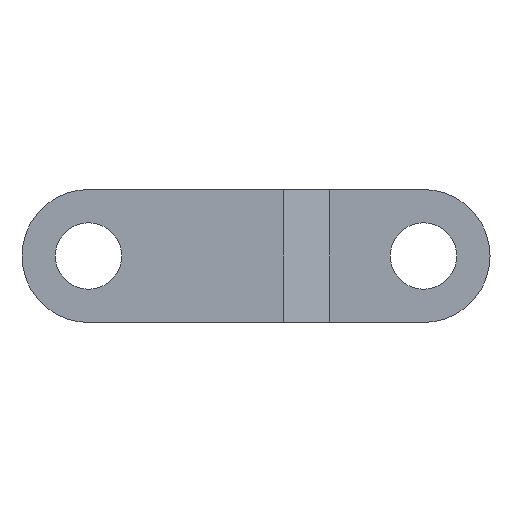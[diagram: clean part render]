
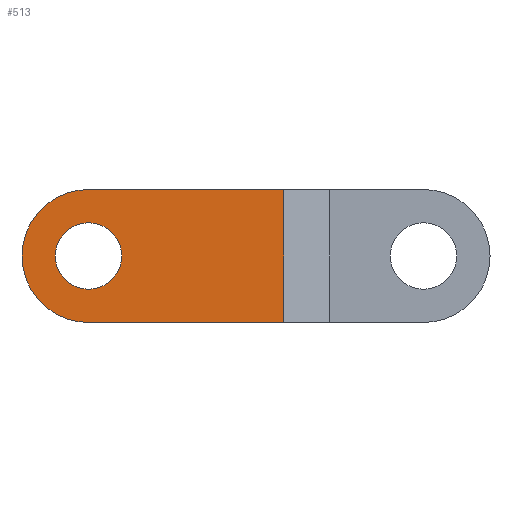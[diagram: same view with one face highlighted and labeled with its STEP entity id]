
A CAD part, left-side view. The second image highlights one B-rep face of the part: STEP entity #513.
In plain terms, the highlighted planar face has unit normal (-1, 0, 0).
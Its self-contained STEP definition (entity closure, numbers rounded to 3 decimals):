
#436=CARTESIAN_POINT('Vertex',(-24.25,10.1,0.)) ;
#439=CARTESIAN_POINT('Axis2P3D Location',(-24.25,12.6,0.)) ;
#443=CARTESIAN_POINT('Vertex',(-24.25,15.1,0.)) ;
#458=CARTESIAN_POINT('Axis2P3D Location',(-24.25,12.6,0.)) ;
#470=CARTESIAN_POINT('Axis2P3D Location',(-24.25,0.,0.)) ;
#475=CARTESIAN_POINT('Line Origine',(-24.25,5.25,5.)) ;
#479=CARTESIAN_POINT('Vertex',(-24.25,12.6,5.)) ;
#481=CARTESIAN_POINT('Vertex',(-24.25,-2.1,5.)) ;
#484=CARTESIAN_POINT('Axis2P3D Location',(-24.25,12.6,0.)) ;
#488=CARTESIAN_POINT('Vertex',(-24.25,12.6,-5.)) ;
#491=CARTESIAN_POINT('Line Origine',(-24.25,5.25,-5.)) ;
#495=CARTESIAN_POINT('Vertex',(-24.25,-2.1,-5.)) ;
#498=CARTESIAN_POINT('Line Origine',(-24.25,-2.1,0.)) ;
#440=DIRECTION('Axis2P3D Direction',(1.,0.,0.)) ;
#459=DIRECTION('Axis2P3D Direction',(1.,0.,0.)) ;
#471=DIRECTION('Axis2P3D Direction',(1.,0.,0.)) ;
#472=DIRECTION('Axis2P3D XDirection',(0.,1.,0.)) ;
#476=DIRECTION('Vector Direction',(0.,-1.,0.)) ;
#485=DIRECTION('Axis2P3D Direction',(1.,0.,0.)) ;
#492=DIRECTION('Vector Direction',(0.,1.,0.)) ;
#499=DIRECTION('Vector Direction',(0.,0.,1.)) ;
#441=AXIS2_PLACEMENT_3D('Circle Axis2P3D',#439,#440,$) ;
#460=AXIS2_PLACEMENT_3D('Circle Axis2P3D',#458,#459,$) ;
#473=AXIS2_PLACEMENT_3D('Plane Axis2P3D',#470,#471,#472) ;
#486=AXIS2_PLACEMENT_3D('Circle Axis2P3D',#484,#485,$) ;
#504=ORIENTED_EDGE('',*,*,#483,.F.) ;
#505=ORIENTED_EDGE('',*,*,#490,.F.) ;
#506=ORIENTED_EDGE('',*,*,#497,.F.) ;
#507=ORIENTED_EDGE('',*,*,#502,.T.) ;
#510=ORIENTED_EDGE('',*,*,#462,.T.) ;
#511=ORIENTED_EDGE('',*,*,#445,.T.) ;
#512=FACE_BOUND('',#509,.T.) ;
#477=VECTOR('Line Direction',#476,1.) ;
#493=VECTOR('Line Direction',#492,1.) ;
#500=VECTOR('Line Direction',#499,1.) ;
#513=ADVANCED_FACE('PartBody',(#508,#512),#474,.F.) ;
#442=CIRCLE('generated circle',#441,2.5) ;
#461=CIRCLE('generated circle',#460,2.5) ;
#487=CIRCLE('generated circle',#486,5.) ;
#445=EDGE_CURVE('',#444,#437,#442,.T.) ;
#462=EDGE_CURVE('',#437,#444,#461,.T.) ;
#483=EDGE_CURVE('',#480,#482,#478,.T.) ;
#490=EDGE_CURVE('',#489,#480,#487,.T.) ;
#497=EDGE_CURVE('',#496,#489,#494,.T.) ;
#502=EDGE_CURVE('',#496,#482,#501,.T.) ;
#503=EDGE_LOOP('',(#504,#505,#506,#507)) ;
#509=EDGE_LOOP('',(#510,#511)) ;
#508=FACE_OUTER_BOUND('',#503,.T.) ;
#478=LINE('Line',#475,#477) ;
#494=LINE('Line',#491,#493) ;
#501=LINE('Line',#498,#500) ;
#474=PLANE('',#473) ;
#437=VERTEX_POINT('',#436) ;
#444=VERTEX_POINT('',#443) ;
#480=VERTEX_POINT('',#479) ;
#482=VERTEX_POINT('',#481) ;
#489=VERTEX_POINT('',#488) ;
#496=VERTEX_POINT('',#495) ;
